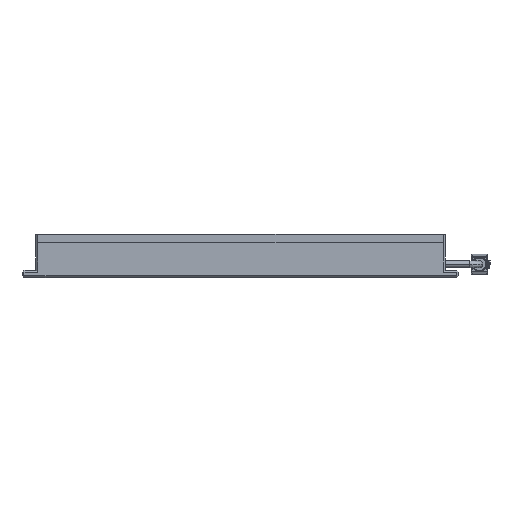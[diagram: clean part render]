
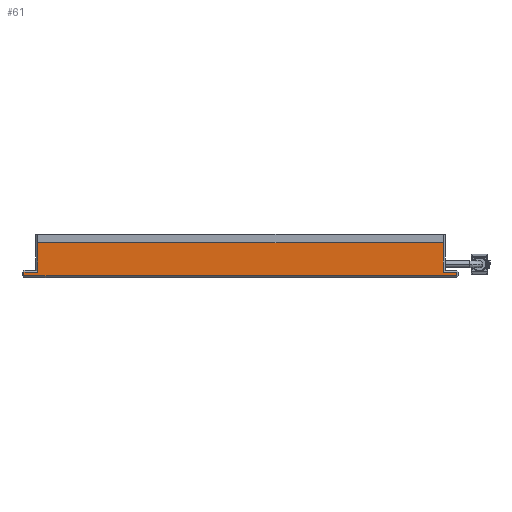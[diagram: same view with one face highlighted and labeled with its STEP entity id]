
A CAD part, left-side view. The second image highlights one B-rep face of the part: STEP entity #61.
In plain terms, the highlighted planar face has unit normal (-1, 0, 0).
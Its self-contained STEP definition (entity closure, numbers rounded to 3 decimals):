
#60 = LINE ( 'NONE', #4379, #7405 ) ;
#61 = ADVANCED_FACE ( 'NONE', ( #5159 ), #3509, .F. ) ;
#163 = EDGE_CURVE ( 'NONE', #8104, #2421, #8067, .T. ) ;
#249 = DIRECTION ( 'NONE',  ( 1., 0., 0. ) ) ;
#260 = LINE ( 'NONE', #6647, #1000 ) ;
#397 = DIRECTION ( 'NONE',  ( 0., 1., 0. ) ) ;
#462 = EDGE_CURVE ( 'NONE', #2421, #1286, #725, .T. ) ;
#496 = LINE ( 'NONE', #4572, #1438 ) ;
#725 = LINE ( 'NONE', #7873, #5348 ) ;
#732 = DIRECTION ( 'NONE',  ( 0., -1., 0. ) ) ;
#793 = ORIENTED_EDGE ( 'NONE', *, *, #163, .T. ) ;
#1000 = VECTOR ( 'NONE', #732, 1000. ) ;
#1085 = CARTESIAN_POINT ( 'NONE',  ( -105., -104., 3. ) ) ;
#1086 = ORIENTED_EDGE ( 'NONE', *, *, #6674, .T. ) ;
#1168 = ORIENTED_EDGE ( 'NONE', *, *, #2331, .T. ) ;
#1286 = VERTEX_POINT ( 'NONE', #6888 ) ;
#1438 = VECTOR ( 'NONE', #6014, 1000. ) ;
#1638 = EDGE_CURVE ( 'NONE', #2234, #8355, #496, .T. ) ;
#1780 = CARTESIAN_POINT ( 'NONE',  ( -105., 104., 3. ) ) ;
#2061 = EDGE_CURVE ( 'NONE', #8027, #8355, #7303, .T. ) ;
#2091 = DIRECTION ( 'NONE',  ( 0., 0., 1. ) ) ;
#2185 = CARTESIAN_POINT ( 'NONE',  ( -105., -105., 18. ) ) ;
#2234 = VERTEX_POINT ( 'NONE', #4607 ) ;
#2331 = EDGE_CURVE ( 'NONE', #1286, #4623, #260, .T. ) ;
#2421 = VERTEX_POINT ( 'NONE', #2913 ) ;
#2541 = EDGE_CURVE ( 'NONE', #4750, #8027, #60, .T. ) ;
#2619 = LINE ( 'NONE', #6819, #5040 ) ;
#2913 = CARTESIAN_POINT ( 'NONE',  ( -105., 111., 3. ) ) ;
#3254 = VECTOR ( 'NONE', #397, 1000. ) ;
#3509 = PLANE ( 'NONE',  #3927 ) ;
#3675 = ORIENTED_EDGE ( 'NONE', *, *, #2541, .T. ) ;
#3927 = AXIS2_PLACEMENT_3D ( 'NONE', #2185, #249, #6939 ) ;
#4379 = CARTESIAN_POINT ( 'NONE',  ( -105., -105., 3. ) ) ;
#4399 = DIRECTION ( 'NONE',  ( 0., 1., 0. ) ) ;
#4572 = CARTESIAN_POINT ( 'NONE',  ( -105., -105., 18. ) ) ;
#4581 = ORIENTED_EDGE ( 'NONE', *, *, #462, .T. ) ;
#4607 = CARTESIAN_POINT ( 'NONE',  ( -105., 104., 18. ) ) ;
#4616 = VECTOR ( 'NONE', #2091, 1000. ) ;
#4623 = VERTEX_POINT ( 'NONE', #5073 ) ;
#4717 = LINE ( 'NONE', #4803, #4616 ) ;
#4750 = VERTEX_POINT ( 'NONE', #5913 ) ;
#4803 = CARTESIAN_POINT ( 'NONE',  ( -105., -111., 4. ) ) ;
#4892 = DIRECTION ( 'NONE',  ( 0., 0., -1. ) ) ;
#4925 = ORIENTED_EDGE ( 'NONE', *, *, #2061, .T. ) ;
#5040 = VECTOR ( 'NONE', #4892, 1000. ) ;
#5073 = CARTESIAN_POINT ( 'NONE',  ( -105., -111., 1. ) ) ;
#5159 = FACE_OUTER_BOUND ( 'NONE', #5524, .T. ) ;
#5348 = VECTOR ( 'NONE', #7250, 1000. ) ;
#5524 = EDGE_LOOP ( 'NONE', ( #6032, #8298, #793, #4581, #1168, #1086, #3675, #4925 ) ) ;
#5616 = CARTESIAN_POINT ( 'NONE',  ( -105., -104., 18. ) ) ;
#5913 = CARTESIAN_POINT ( 'NONE',  ( -105., -111., 3. ) ) ;
#6014 = DIRECTION ( 'NONE',  ( 0., -1., 0. ) ) ;
#6032 = ORIENTED_EDGE ( 'NONE', *, *, #1638, .F. ) ;
#6478 = VECTOR ( 'NONE', #8209, 1000. ) ;
#6647 = CARTESIAN_POINT ( 'NONE',  ( -105., -112., 1. ) ) ;
#6674 = EDGE_CURVE ( 'NONE', #4623, #4750, #4717, .T. ) ;
#6761 = EDGE_CURVE ( 'NONE', #2234, #8104, #2619, .T. ) ;
#6819 = CARTESIAN_POINT ( 'NONE',  ( -105., 104., 18. ) ) ;
#6888 = CARTESIAN_POINT ( 'NONE',  ( -105., 111., 1. ) ) ;
#6939 = DIRECTION ( 'NONE',  ( 0., 0., -1. ) ) ;
#6956 = CARTESIAN_POINT ( 'NONE',  ( -105., -104., 18. ) ) ;
#7113 = CARTESIAN_POINT ( 'NONE',  ( -105., -105., 3. ) ) ;
#7250 = DIRECTION ( 'NONE',  ( 0., 0., -1. ) ) ;
#7303 = LINE ( 'NONE', #5616, #6478 ) ;
#7405 = VECTOR ( 'NONE', #4399, 1000. ) ;
#7873 = CARTESIAN_POINT ( 'NONE',  ( -105., 111., 0. ) ) ;
#8027 = VERTEX_POINT ( 'NONE', #1085 ) ;
#8067 = LINE ( 'NONE', #7113, #3254 ) ;
#8104 = VERTEX_POINT ( 'NONE', #1780 ) ;
#8209 = DIRECTION ( 'NONE',  ( 0., 0., 1. ) ) ;
#8298 = ORIENTED_EDGE ( 'NONE', *, *, #6761, .T. ) ;
#8355 = VERTEX_POINT ( 'NONE', #6956 ) ;
